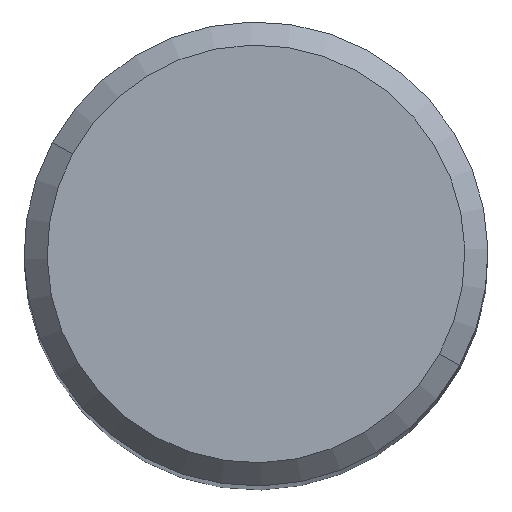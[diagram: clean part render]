
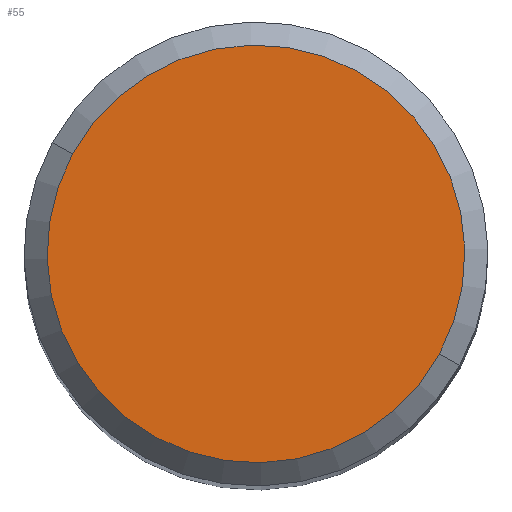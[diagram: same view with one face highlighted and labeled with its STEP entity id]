
A CAD part, top view. The second image highlights one B-rep face of the part: STEP entity #55.
In plain terms, the highlighted planar face has unit normal (0, 0, 1).
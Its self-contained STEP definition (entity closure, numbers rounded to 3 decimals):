
#35=AXIS2_PLACEMENT_3D('Plane Axis2P3D',#32,#33,#34) ;
#39=AXIS2_PLACEMENT_3D('Circle Axis2P3D',#37,#38,$) ;
#48=AXIS2_PLACEMENT_3D('Circle Axis2P3D',#46,#47,$) ;
#32=CARTESIAN_POINT('Axis2P3D Location',(-6.,0.,0.)) ;
#37=CARTESIAN_POINT('Axis2P3D Location',(0.,0.,0.)) ;
#41=CARTESIAN_POINT('Vertex',(-4.739,2.589,0.)) ;
#43=CARTESIAN_POINT('Vertex',(4.739,-2.589,0.)) ;
#46=CARTESIAN_POINT('Axis2P3D Location',(0.,0.,0.)) ;
#33=DIRECTION('Axis2P3D Direction',(0.,0.,-1.)) ;
#34=DIRECTION('Axis2P3D XDirection',(-1.,0.,0.)) ;
#38=DIRECTION('Axis2P3D Direction',(0.,0.,-1.)) ;
#47=DIRECTION('Axis2P3D Direction',(0.,0.,-1.)) ;
#52=ORIENTED_EDGE('',*,*,#45,.F.) ;
#53=ORIENTED_EDGE('',*,*,#50,.F.) ;
#55=ADVANCED_FACE('NO_CUT',(#54),#36,.F.) ;
#40=CIRCLE('generated circle',#39,5.4) ;
#49=CIRCLE('generated circle',#48,5.4) ;
#45=EDGE_CURVE('',#42,#44,#40,.T.) ;
#50=EDGE_CURVE('',#44,#42,#49,.T.) ;
#51=EDGE_LOOP('',(#52,#53)) ;
#54=FACE_OUTER_BOUND('',#51,.T.) ;
#36=PLANE('',#35) ;
#42=VERTEX_POINT('',#41) ;
#44=VERTEX_POINT('',#43) ;
